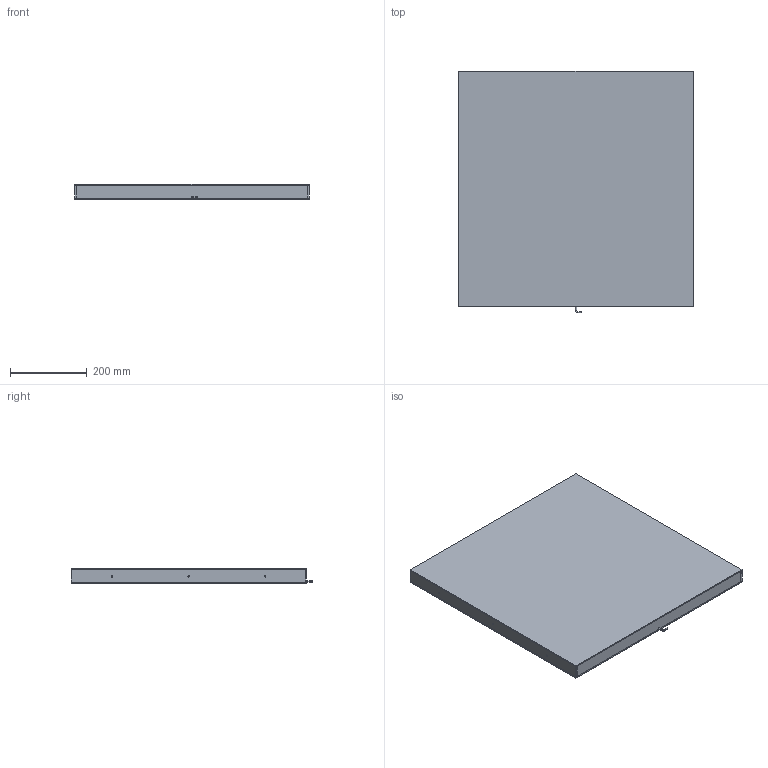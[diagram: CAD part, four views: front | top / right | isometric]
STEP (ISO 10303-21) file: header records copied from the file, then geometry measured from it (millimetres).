
FILE_DESCRIPTION (( 'STEP AP203' ), '1' );
FILE_NAME ('CRT-FLD600600-¼òÒ×3DÍ¼.STEP', '2021-11-23T00:54:27', ( 'Admin' ), ( '' ), 'SwSTEP 2.0', 'SolidWorks 2018', '' );
FILE_SCHEMA (( 'CONFIG_CONTROL_DESIGN' ));
Length unit declared in the file: millimetre
Products named in the file (1): CRT-FLD600600-潠眢3D芞
Bounding box: 614 x 631.75 x 40 mm (x, y, z)
Surface area: 851243.3 mm2 (no closed solid volume)
Topology: 0 solids, 7 shells, 54 faces, 155 edges, 106 vertices
Faces by surface type: plane 34, cylinder 18, bspline 2
Entity records: 1859 total; most frequent: CARTESIAN_POINT 402, DIRECTION 290, ORIENTED_EDGE 234, EDGE_CURVE 155, LINE 118, VECTOR 118, VERTEX_POINT 106, AXIS2_PLACEMENT_3D 86
